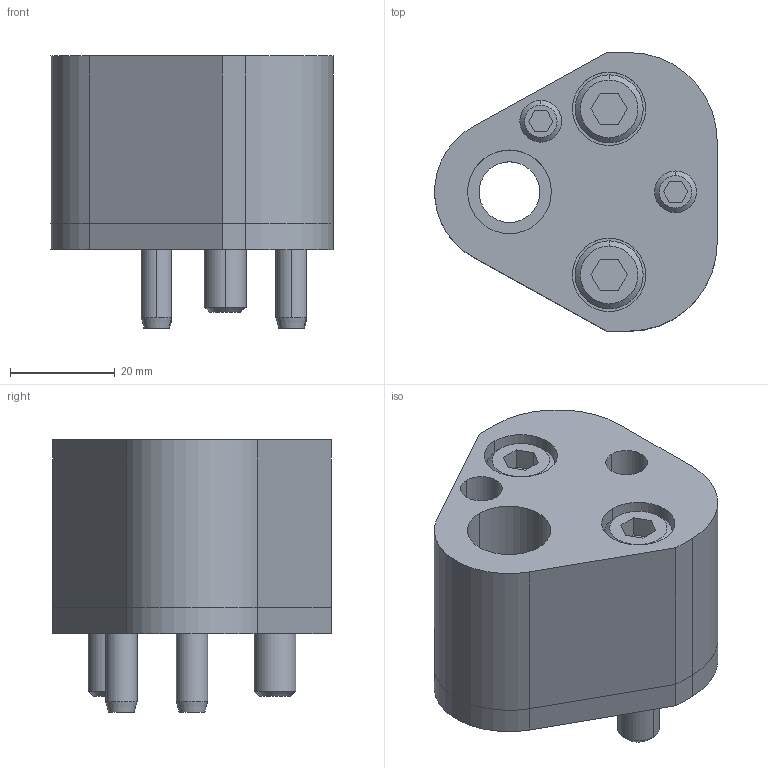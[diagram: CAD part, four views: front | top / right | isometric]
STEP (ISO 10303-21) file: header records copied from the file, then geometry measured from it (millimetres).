
FILE_DESCRIPTION(/* description */ (''),/* implementation_level */ '2;1');
FILE_NAME(/* name */ '3d_crn-ad16_03617_r00.stp',/* time_stamp */ '2011-01-10T14:16:24+09:00',/* author */ ('MISUMI'),/* organization */ (''),/* preprocessor_version */ 'ST-DEVELOPER v11',/* originating_system */ 'UGS - NX 5.0',/* authorisation */ '');
FILE_SCHEMA (('CONFIG_CONTROL_DESIGN'));
Length unit declared in the file: millimetre
Products named in the file (1): 3d_crn-ad16_03617_r00
Bounding box: 53.95 x 53.2 x 52 mm (x, y, z)
Volume: 69918.3 mm3; surface area: 24624.7 mm2
Topology: 8 solids, 8 shells, 155 faces, 348 edges, 224 vertices
Faces by surface type: plane 67, cylinder 62, cone 26
Entity records: 4494 total; most frequent: DIRECTION 804, CARTESIAN_POINT 782, ORIENTED_EDGE 696, EDGE_CURVE 348, AXIS2_PLACEMENT_3D 306, VERTEX_POINT 224, LINE 192, VECTOR 192
